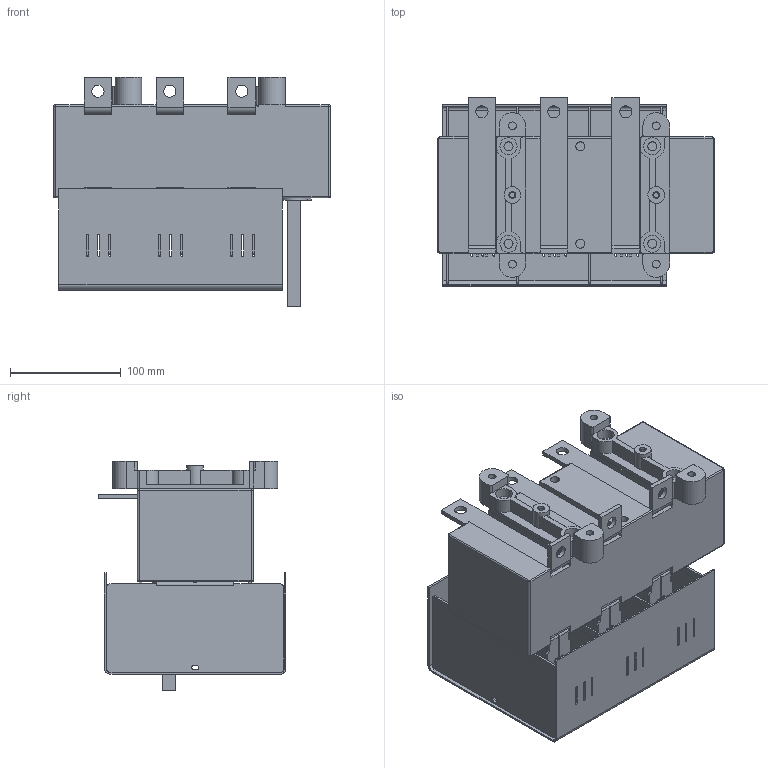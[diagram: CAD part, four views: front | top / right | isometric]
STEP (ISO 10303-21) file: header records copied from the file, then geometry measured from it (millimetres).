
FILE_DESCRIPTION(/* description */ (''),/* implementation_level */ '2;1');
FILE_NAME(/* name */ 'RAB 1 P3 A.stp',/* time_stamp */ '2021-08-19T12:40:32+02:00',/* author */ (''),/* organization */ (''),/* preprocessor_version */ 'ST-DEVELOPER v18.1',/* originating_system */ 'SIEMENS PLM Software NX 1965',/* authorisation */ '');
FILE_SCHEMA (('AUTOMOTIVE_DESIGN { 1 0 10303 214 3 1 1 1 }'));
Length unit declared in the file: millimetre
Products named in the file (1): RAB 1 P3 A_stp
Bounding box: 250 x 169.79 x 207.3 mm (x, y, z)
Volume: 2400489.8 mm3; surface area: 445820.3 mm2
Topology: 1 solids, 7 shells, 1178 faces, 3200 edges, 2072 vertices
Faces by surface type: plane 783, cylinder 387, torus 5, bspline 3
Full cylindrical faces by diameter (mm): 2.5 x4, 4.8 x2, 5.2 x18, 6.2 x2, 7 x4, 8.2 x6, 11 x6, 14 x4, 15 x2, 15.5 x4
Entity records: 37035 total; most frequent: CARTESIAN_POINT 6586, ORIENTED_EDGE 6288, DIRECTION 6284, EDGE_CURVE 3144, LINE 2332, VECTOR 2332, VERTEX_POINT 2068, AXIS2_PLACEMENT_3D 1976
